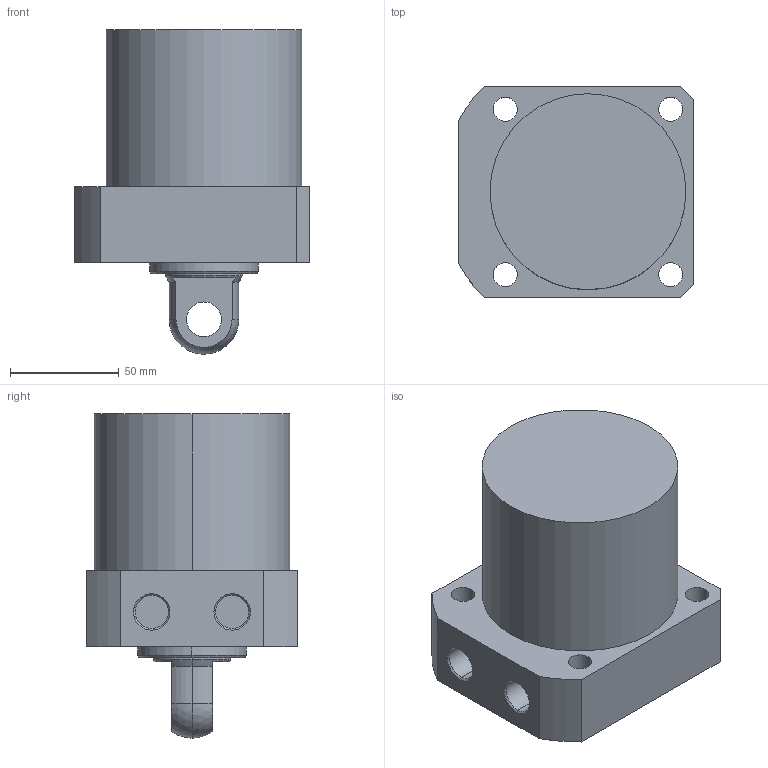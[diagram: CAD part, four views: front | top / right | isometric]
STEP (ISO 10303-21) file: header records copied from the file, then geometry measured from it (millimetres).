
FILE_DESCRIPTION (( 'STEP AP203' ), '1' );
FILE_NAME ('CLLR-090CP-050.STEP', '2019-12-19T03:24:11', ( '' ), ( '' ), 'SwSTEP 2.0', 'SolidWorks 2015', '' );
FILE_SCHEMA (( 'CONFIG_CONTROL_DESIGN' ));
Length unit declared in the file: millimetre
Products named in the file (1): CLLR-090CP-050
Bounding box: 108 x 97 x 149 mm (x, y, z)
Volume: 820516.2 mm3; surface area: 65057.1 mm2
Topology: 1 solids, 1 shells, 57 faces, 135 edges, 87 vertices
Faces by surface type: cylinder 29, plane 18, cone 8, sphere 2
Entity records: 1770 total; most frequent: DIRECTION 319, CARTESIAN_POINT 292, ORIENTED_EDGE 270, EDGE_CURVE 135, AXIS2_PLACEMENT_3D 130, VERTEX_POINT 87, EDGE_LOOP 74, CIRCLE 72
